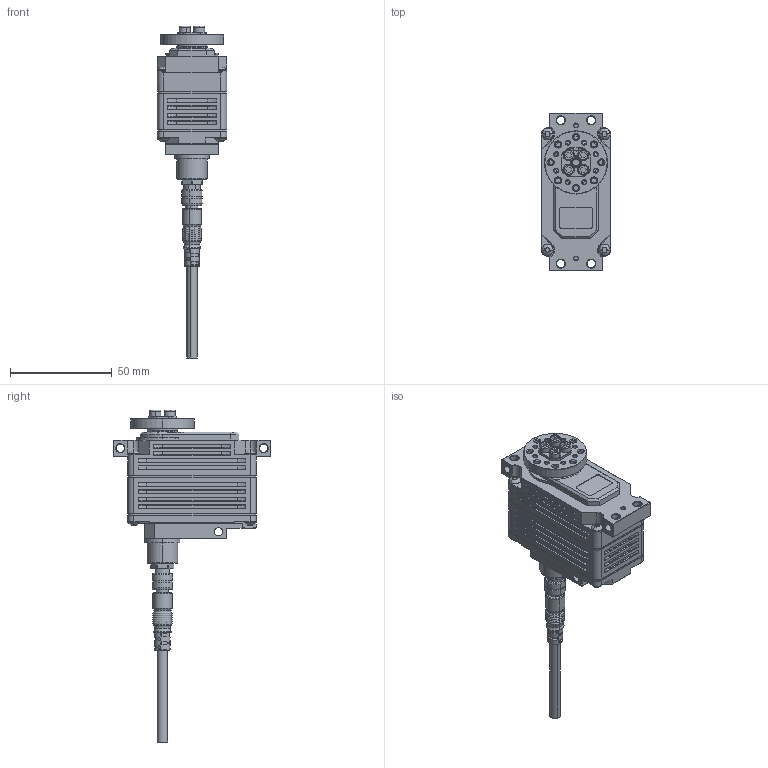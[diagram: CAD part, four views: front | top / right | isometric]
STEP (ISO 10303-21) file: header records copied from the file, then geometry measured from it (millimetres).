
FILE_DESCRIPTION (( 'STEP AP203' ), '1' );
FILE_NAME ('BLA34-12U-AB1(3D)_STRAIGHT-CABLE.STEP', '2025-06-06T03:05:38', ( '' ), ( '' ), 'SwSTEP 2.0', 'SolidWorks 2023', '' );
FILE_SCHEMA (( 'CONFIG_CONTROL_DESIGN' ));
Length unit declared in the file: millimetre
Products named in the file (6): CABLE_BE0010(M8-STRAIGHT); BLA34-12U-AB1(3D)_STRAIGHT-CABLE; SPRING-PIN_2.5x10; SERVO_HORN; SCREW_M3x12; BLA34-12U-AB1
Assembly tree (11 placements, depth 2):
  BLA34-12U-AB1(3D)_STRAIGHT-CABLE
    BLA34-12U-AB1
    SERVO_HORN
    SPRING-PIN_2.5x10  x4
    SCREW_M3x12  x4
    CABLE_BE0010(M8-STRAIGHT)
Bounding box: 34 x 77.4 x 163.1 mm (x, y, z)
Volume: 108050 mm3; surface area: 25634.7 mm2
Topology: 11 solids, 11 shells, 1424 faces, 3606 edges, 2274 vertices
Faces by surface type: cylinder 701, plane 387, cone 186, torus 142, bspline 8
Entity records: 38676 total; most frequent: CARTESIAN_POINT 9045, DIRECTION 6203, ORIENTED_EDGE 6000, EDGE_CURVE 3000, AXIS2_PLACEMENT_3D 2473, VERTEX_POINT 1872, EDGE_LOOP 1334, CIRCLE 1259
